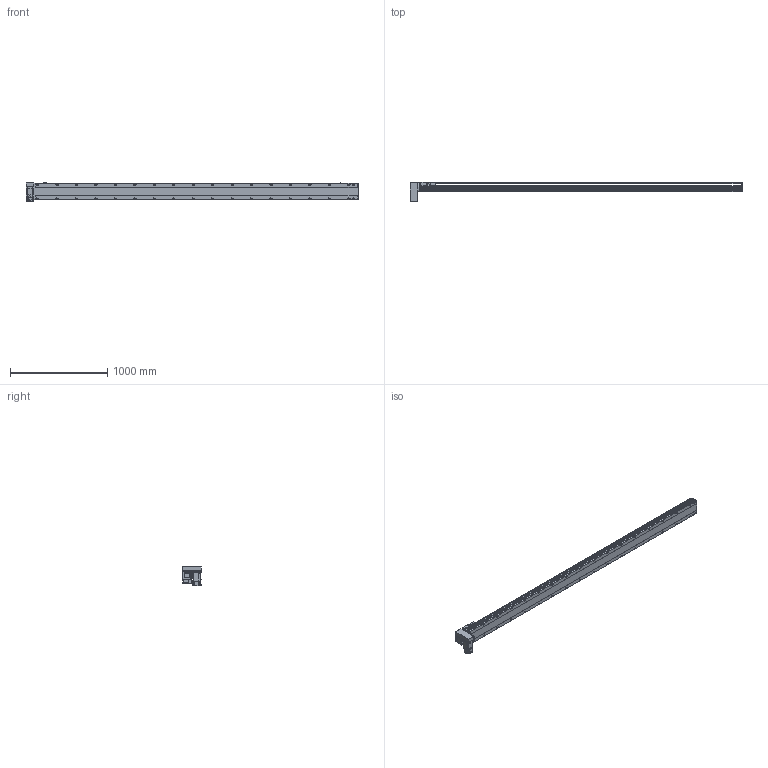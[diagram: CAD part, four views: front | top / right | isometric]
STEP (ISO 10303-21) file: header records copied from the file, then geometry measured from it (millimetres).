
FILE_DESCRIPTION( ( 'STEP AP214' ), '1' );
FILE_NAME( 'x:/temp/worker_5/temp/exporttempdir_3988_54_hgUkW/format_0/PBS170-P40-S3050-RD-T75-C1-N(0).stp', '2022-06-08T05:38:36', ( 'License CC BY-ND 4.0' ), ( 'CADENAS' ), ' ', 'PARTsolutions', ' ' );
FILE_SCHEMA( ( 'AUTOMOTIVE_DESIGN { 1 0 10303 214 1 1 1 1 }' ) );
Length unit declared in the file: millimetre
Products named in the file (7): PBS170-P40-S3050-RD-T75-C1-N(0); _PBS170-S3050()_body; _PBS170T-RD_motors; _T75-p1; _PBS170_sliser; _PBS170_plant; _PBS170_sensor
Assembly tree (8 placements, depth 2):
  PBS170-P40-S3050-RD-T75-C1-N(0)
    _PBS170-S3050()_body
    _PBS170T-RD_motors
    _T75-p1
    _PBS170_sliser
    _PBS170_plant
    _PBS170_sensor  x3
Bounding box: 3413 x 201 x 205.3 mm (x, y, z)
Volume: 25594546.9 mm3; surface area: 3203559.3 mm2
Topology: 8 solids, 8 shells, 1242 faces, 3275 edges, 2134 vertices
Faces by surface type: plane 747, cylinder 419, cone 66, sphere 8, torus 2
Full cylindrical faces by diameter (mm): 3.242 x4, 4 x2, 4.4 x4, 4.5 x6, 4.917 x4, 6 x9, 6.647 x44, 7 x2, 7.5 x4, 8 x8, 8.5 x36, 10 x4, 10.5 x36, 11 x2, 30 x2, 40 x1, 70 x1
Entity records: 46160 total; most frequent: CARTESIAN_POINT 7901, DIRECTION 6000, ORIENTED_EDGE 5628, EDGE_CURVE 2814, AXIS2_PLACEMENT_3D 2137, VERTEX_POINT 1970, LINE 1726, VECTOR 1726
